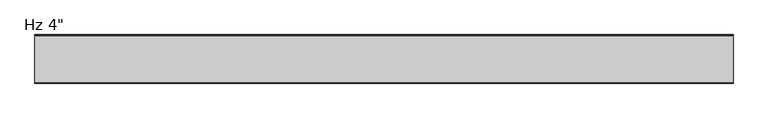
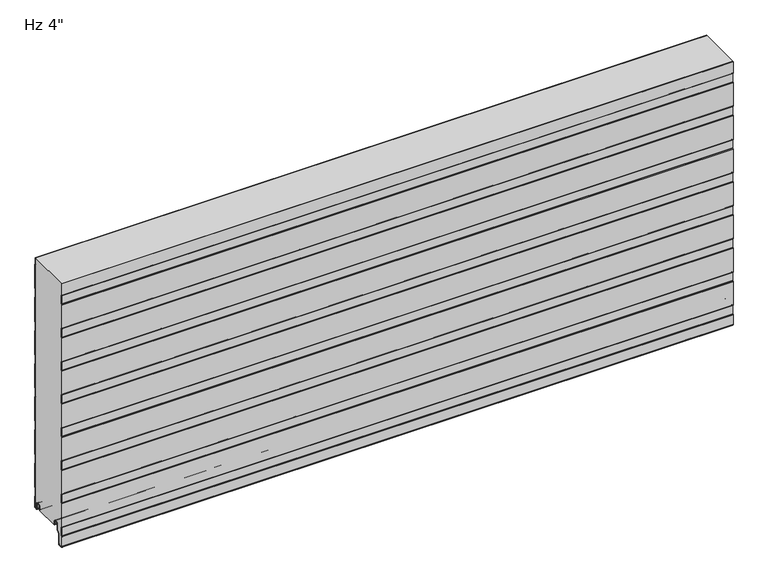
"""IFC4 building model written with IfcOpenShell, lengths in millimetres: plate geometry."""

from ifc_helpers import new_model, si_unit, point, frame, frame_2d, origin, place, context, project, spatial, polyline, circle_curve, trimmed, segment, composite_curve, outline, extrude, source, transform, mapped, element, save
from ifc_brep_helpers import plane_surface, cylinder_surface, revolved_surface, advanced_brep


def plate_79ad022d(model_context):
    return source(origin(), model_context, "Body", "SolidModel", [
        advanced_brep(
        [(-730.0, -17.0015368, 2.0313088), (-730.0, -18.00154, 1.0313116), (-730.0, -19.0015314, 2.0313088), (-730.0, -19.0015314, 6.0315125), (-730.0, -18.0015368, 6.0315125), (-730.0, -18.0015368, 8.7237223), (-730.0, -14.7015411, 12.023718), (-730.0, -10.3015499, 12.023718), (-730.0, -7.0015544, 8.7237225), (-730.0, -7.0015544, -1.6962564), (-730.0, -5.2315602, -3.4662506), (-730.0, -1.0000126, -3.4662506), (-730.0, -1.0000126, 21.034026), (-730.0, -2.2002516, 22.4196686), (-730.0, -2.2002516, 41.7948349), (-730.0, -1.0000209, 43.1804679), (-730.0, -1.0000209, 97.2338833), (-730.0, -2.2002516, 98.6195162), (-730.0, -2.2002516, 117.9946825), (-730.0, -1.0000209, 119.3803155), (-730.0, -1.0000209, 173.4337309), (-730.0, -2.2002516, 174.8193638), (-730.0, -2.2002516, 194.1945301), (-730.0, -1.0000209, 195.5801631), (-730.0, -1.0000209, 249.6335785), (-730.0, -2.2002516, 251.0192114), (-730.0, -2.2002516, 270.3943777), (-730.0, -1.0000209, 271.7800107), (-730.0, -1.0000209, 325.8334261), (-730.0, -2.2002516, 327.219059), (-730.0, -2.2002516, 346.5942253), (-730.0, -1.0000209, 347.9798583), (-730.0, -1.0000209, 402.0332737), (-730.0, -2.2002516, 403.4189066), (-730.0, -2.2002516, 422.7940729), (-730.0, -1.0000209, 424.1797059), (-730.0, -1.0000209, 478.2331213), (-730.0, -2.2002516, 479.6187542), (-730.0, -2.2002516, 498.9939205), (-730.0, -1.0000209, 500.3795535), (-730.0, -1.0000209, 554.4329689), (-730.0, -2.2002516, 555.8186018), (-730.0, -2.2002516, 571.2), (-730.0, -1.2002516, 571.2), (-730.0, -1.2002516, 556.1914823), (-730.0, -0.3418094, 555.2004346), (-730.0, -2.09e-05, 554.2838177), (-730.0, -2.09e-05, 500.5287046), (-730.0, -0.3418094, 499.6120877), (-730.0, -1.2002516, 498.6210401), (-730.0, -1.2002516, 479.9916347), (-730.0, -0.3418094, 479.000587), (-730.0, -2.09e-05, 478.0839701), (-730.0, -2.09e-05, 424.328857), (-730.0, -0.3418094, 423.4122401), (-730.0, -1.2002516, 422.4211925), (-730.0, -1.2002516, 403.7917871), (-730.0, -0.3418094, 402.8007394), (-730.0, -2.09e-05, 401.8841225), (-730.0, -2.09e-05, 348.1290094), (-730.0, -0.3418094, 347.2123925), (-730.0, -1.2002516, 346.2213449), (-730.0, -1.2002516, 327.5919395), (-730.0, -0.3418094, 326.6008918), (-730.0, -2.09e-05, 325.6842749), (-730.0, -2.09e-05, 271.9291618), (-730.0, -0.3418094, 271.0125449), (-730.0, -1.2002516, 270.0214973), (-730.0, -1.2002516, 251.3920919), (-730.0, -0.3418094, 250.4010442), (-730.0, -2.09e-05, 249.4844273), (-730.0, -2.09e-05, 195.7293142), (-730.0, -0.3418094, 194.8126973), (-730.0, -1.2002516, 193.8216497), (-730.0, -1.2002516, 175.1922443), (-730.0, -0.3418094, 174.2011966), (-730.0, -2.09e-05, 173.2845797), (-730.0, -2.09e-05, 119.5294666), (-730.0, -0.3418094, 118.6128497), (-730.0, -1.2002516, 117.6218021), (-730.0, -1.2002516, 98.9923967), (-730.0, -0.3418094, 98.001349), (-730.0, -2.09e-05, 97.0847321), (-730.0, -2.09e-05, 43.329619), (-730.0, -0.3418094, 42.4130021), (-730.0, -1.2002516, 41.4219545), (-730.0, -1.2002516, 22.7925491), (-730.0, -0.3418094, 21.8015014), (-730.0, -2.09e-05, 20.8847931), (-730.0, -1.26e-05, -3.0662545), (-730.0, -1.4000087, -4.4662506), (-730.0, -5.2315602, -4.4662506), (-730.0, -8.0015544, -1.6962564), (-730.0, -8.0015544, 8.7237225), (-730.0, -10.3015499, 11.023718), (-730.0, -14.7015411, 11.023718), (-730.0, -17.0015368, 8.7237223), (730.0, -17.0015368, 2.0313088), (730.0, -17.0015368, 8.7237223), (730.0, -14.7015411, 11.023718), (730.0, -10.3015499, 11.023718), (730.0, -8.0015544, 8.7237225), (730.0, -8.0015544, -1.6962564), (730.0, -5.2315602, -4.4662506), (730.0, -1.4000087, -4.4662506), (730.0, -1.26e-05, -3.0662545), (730.0, -1.26e-05, 20.8848845), (730.0, -0.3418094, 21.8015014), (730.0, -1.2002516, 22.7925491), (730.0, -1.2002516, 41.4219545), (730.0, -0.3418094, 42.4130021), (730.0, -2.09e-05, 43.329619), (730.0, -2.09e-05, 97.0847321), (730.0, -0.3418094, 98.001349), (730.0, -1.2002516, 98.9923967), (730.0, -1.2002516, 117.6218021), (730.0, -0.3418094, 118.6128497), (730.0, -2.09e-05, 119.5294666), (730.0, -2.09e-05, 173.2845797), (730.0, -0.3418094, 174.2011966), (730.0, -1.2002516, 175.1922443), (730.0, -1.2002516, 193.8216497), (730.0, -0.3418094, 194.8126973), (730.0, -2.09e-05, 195.7293142), (730.0, -2.09e-05, 249.4844273), (730.0, -0.3418094, 250.4010442), (730.0, -1.2002516, 251.3920919), (730.0, -1.2002516, 270.0214973), (730.0, -0.3418094, 271.0125449), (730.0, -2.09e-05, 271.9291618), (730.0, -2.09e-05, 325.6842749), (730.0, -0.3418094, 326.6008918), (730.0, -1.2002516, 327.5919395), (730.0, -1.2002516, 346.2213449), (730.0, -0.3418094, 347.2123925), (730.0, -2.09e-05, 348.1290094), (730.0, -2.09e-05, 401.8841225), (730.0, -0.3418094, 402.8007394), (730.0, -1.2002516, 403.7917871), (730.0, -1.2002516, 422.4211925), (730.0, -0.3418094, 423.4122401), (730.0, -2.09e-05, 424.328857), (730.0, -2.09e-05, 478.0839701), (730.0, -0.3418094, 479.000587), (730.0, -1.2002516, 479.9916347), (730.0, -1.2002516, 498.6210401), (730.0, -0.3418094, 499.6120877), (730.0, -2.09e-05, 500.5287046), (730.0, -2.09e-05, 554.2838177), (730.0, -0.3418094, 555.2004346), (730.0, -1.2002516, 556.1914823), (730.0, -1.2002516, 571.2), (730.0, -2.2002516, 571.2), (730.0, -2.2002516, 555.8186018), (730.0, -1.0000209, 554.4329689), (730.0, -1.0000209, 500.3795535), (730.0, -2.2002516, 498.9939205), (730.0, -2.2002516, 479.6187542), (730.0, -1.0000209, 478.2331213), (730.0, -1.0000209, 424.1797059), (730.0, -2.2002516, 422.7940729), (730.0, -2.2002516, 403.4189066), (730.0, -1.0000209, 402.0332737), (730.0, -1.0000209, 347.9798583), (730.0, -2.2002516, 346.5942253), (730.0, -2.2002516, 327.219059), (730.0, -1.0000209, 325.8334261), (730.0, -1.0000209, 271.7800107), (730.0, -2.2002516, 270.3943777), (730.0, -2.2002516, 251.0192114), (730.0, -1.0000209, 249.6335785), (730.0, -1.0000209, 195.5801631), (730.0, -2.2002516, 194.1945301), (730.0, -2.2002516, 174.8193638), (730.0, -1.0000209, 173.4337309), (730.0, -1.0000209, 119.3803155), (730.0, -2.2002516, 117.9946825), (730.0, -2.2002516, 98.6195162), (730.0, -1.0000209, 97.2338833), (730.0, -1.0000209, 43.1804679), (730.0, -2.2002516, 41.7948349), (730.0, -2.2002516, 22.4196686), (730.0, -1.0000126, 21.034026), (730.0, -1.0000126, -3.4662506), (730.0, -5.2315602, -3.4662506), (730.0, -7.0015544, -1.6962564), (730.0, -7.0015544, 8.7237225), (730.0, -10.3015499, 12.023718), (730.0, -14.7015411, 12.023718), (730.0, -18.0015368, 8.7237223), (730.0, -18.0015368, 6.0315125), (730.0, -19.0015314, 6.0315125), (730.0, -19.0015314, 2.0313088), (730.0, -18.0015401, 1.0313116)],
        [
            (0, 1, circle_curve(frame((-730.0, -18.0015341, 2.0313088), z_axis=(-1.0, 0.0, 0.0), x_axis=(0.0, 0.0, 1.0)), 0.9999973)),
            (1, 2, circle_curve(frame((-730.0, -18.0015342, 2.0313088), z_axis=(-1.0, 0.0, 0.0), x_axis=(0.0, 0.0, 1.0)), 0.9999972)),
            (2, 3),
            (3, 4),
            (4, 5),
            (5, 6, circle_curve(frame((-730.0, -14.7015411, 8.7237223), z_axis=(-1.0, 0.0, 0.0), x_axis=(0.0, 0.0, 1.0)), 3.2999957)),
            (6, 7),
            (7, 8, circle_curve(frame((-730.0, -10.3015499, 8.7237225), z_axis=(-1.0, 0.0, 0.0), x_axis=(0.0, 0.0, 1.0)), 3.2999955)),
            (8, 9),
            (9, 10, circle_curve(frame((-730.0, -5.2315602, -1.6962564), z_axis=(1.0, 0.0, 0.0), x_axis=(0.0, 0.0, 1.0)), 1.7699942)),
            (10, 11),
            (11, 12),
            (12, 13),
            (13, 14),
            (14, 15),
            (15, 16),
            (16, 17),
            (17, 18),
            (18, 19),
            (19, 20),
            (20, 21),
            (21, 22),
            (22, 23),
            (23, 24),
            (24, 25),
            (25, 26),
            (26, 27),
            (27, 28),
            (28, 29),
            (29, 30),
            (30, 31),
            (31, 32),
            (32, 33),
            (33, 34),
            (34, 35),
            (35, 36),
            (36, 37),
            (37, 38),
            (38, 39),
            (39, 40),
            (40, 41),
            (41, 42),
            (42, 43),
            (43, 44),
            (44, 45),
            (45, 46, circle_curve(frame((-730.0, -1.4000181, 554.2838177), z_axis=(-1.0, 0.0, 0.0), x_axis=(0.0, 0.0, 1.0)), 1.3999972)),
            (46, 47),
            (47, 48, circle_curve(frame((-730.0, -1.4000181, 500.5287046), z_axis=(-1.0, 0.0, 0.0), x_axis=(0.0, 0.0, 1.0)), 1.3999972)),
            (48, 49),
            (49, 50),
            (50, 51),
            (51, 52, circle_curve(frame((-730.0, -1.4000181, 478.0839701), z_axis=(-1.0, 0.0, 0.0), x_axis=(0.0, 0.0, 1.0)), 1.3999972)),
            (52, 53),
            (53, 54, circle_curve(frame((-730.0, -1.4000181, 424.328857), z_axis=(-1.0, 0.0, 0.0), x_axis=(0.0, 0.0, 1.0)), 1.3999972)),
            (54, 55),
            (55, 56),
            (56, 57),
            (57, 58, circle_curve(frame((-730.0, -1.4000181, 401.8841225), z_axis=(-1.0, 0.0, 0.0), x_axis=(0.0, 0.0, 1.0)), 1.3999972)),
            (58, 59),
            (59, 60, circle_curve(frame((-730.0, -1.4000181, 348.1290094), z_axis=(-1.0, 0.0, 0.0), x_axis=(0.0, 0.0, 1.0)), 1.3999972)),
            (60, 61),
            (61, 62),
            (62, 63),
            (63, 64, circle_curve(frame((-730.0, -1.4000181, 325.6842749), z_axis=(-1.0, 0.0, 0.0), x_axis=(0.0, 0.0, 1.0)), 1.3999972)),
            (64, 65),
            (65, 66, circle_curve(frame((-730.0, -1.4000181, 271.9291618), z_axis=(-1.0, 0.0, 0.0), x_axis=(0.0, 0.0, 1.0)), 1.3999972)),
            (66, 67),
            (67, 68),
            (68, 69),
            (69, 70, circle_curve(frame((-730.0, -1.4000181, 249.4844273), z_axis=(-1.0, 0.0, 0.0), x_axis=(0.0, 0.0, 1.0)), 1.3999972)),
            (70, 71),
            (71, 72, circle_curve(frame((-730.0, -1.4000181, 195.7293142), z_axis=(-1.0, 0.0, 0.0), x_axis=(0.0, 0.0, 1.0)), 1.3999972)),
            (72, 73),
            (73, 74),
            (74, 75),
            (75, 76, circle_curve(frame((-730.0, -1.4000181, 173.2845797), z_axis=(-1.0, 0.0, 0.0), x_axis=(0.0, 0.0, 1.0)), 1.3999972)),
            (76, 77),
            (77, 78, circle_curve(frame((-730.0, -1.4000181, 119.5294666), z_axis=(-1.0, 0.0, 0.0), x_axis=(0.0, 0.0, 1.0)), 1.3999972)),
            (78, 79),
            (79, 80),
            (80, 81),
            (81, 82, circle_curve(frame((-730.0, -1.4000181, 97.0847321), z_axis=(-1.0, 0.0, 0.0), x_axis=(0.0, 0.0, 1.0)), 1.3999972)),
            (82, 83),
            (83, 84, circle_curve(frame((-730.0, -1.4000181, 43.329619), z_axis=(-1.0, 0.0, 0.0), x_axis=(0.0, 0.0, 1.0)), 1.3999972)),
            (84, 85),
            (85, 86),
            (86, 87),
            (87, 88, circle_curve(frame((-730.0, -1.4000181, 20.8848845), z_axis=(-1.0, 0.0, 0.0), x_axis=(0.0, 0.0, 1.0)), 1.3999972)),
            (88, 89),
            (89, 90, circle_curve(frame((-730.0, -1.4000087, -3.0662545), z_axis=(-1.0, 0.0, 0.0), x_axis=(0.0, 0.0, 1.0)), 1.3999962)),
            (90, 91),
            (91, 92, circle_curve(frame((-730.0, -5.2315602, -1.6962564), z_axis=(-1.0, 0.0, 0.0), x_axis=(0.0, 0.0, 1.0)), 2.7699942)),
            (92, 93),
            (93, 94, circle_curve(frame((-730.0, -10.3015499, 8.7237225), z_axis=(1.0, 0.0, 0.0), x_axis=(0.0, 0.0, 1.0)), 2.2999955)),
            (94, 95),
            (95, 96, circle_curve(frame((-730.0, -14.7015411, 8.7237223), z_axis=(1.0, 0.0, 0.0), x_axis=(0.0, 0.0, 1.0)), 2.2999957)),
            (96, 0),
            (97, 98),
            (98, 99, circle_curve(frame((730.0, -14.7015411, 8.7237223), z_axis=(-1.0, 0.0, 0.0), x_axis=(0.0, 0.0, 1.0)), 2.2999957)),
            (99, 100),
            (100, 101, circle_curve(frame((730.0, -10.3015499, 8.7237225), z_axis=(-1.0, 0.0, 0.0), x_axis=(0.0, 0.0, 1.0)), 2.2999955)),
            (101, 102),
            (102, 103, circle_curve(frame((730.0, -5.2315602, -1.6962564), z_axis=(1.0, 0.0, 0.0), x_axis=(0.0, 0.0, 1.0)), 2.7699942)),
            (103, 104),
            (104, 105, circle_curve(frame((730.0, -1.4000087, -3.0662545), z_axis=(1.0, 0.0, 0.0), x_axis=(0.0, 0.0, 1.0)), 1.3999962)),
            (105, 106),
            (106, 107, circle_curve(frame((730.0, -1.4000181, 20.8848845), z_axis=(1.0, 0.0, 0.0), x_axis=(0.0, 0.0, 1.0)), 1.3999972)),
            (107, 108),
            (108, 109),
            (109, 110),
            (110, 111, circle_curve(frame((730.0, -1.4000181, 43.329619), z_axis=(1.0, 0.0, 0.0), x_axis=(0.0, 0.0, 1.0)), 1.3999972)),
            (111, 112),
            (112, 113, circle_curve(frame((730.0, -1.4000181, 97.0847321), z_axis=(1.0, 0.0, 0.0), x_axis=(0.0, 0.0, 1.0)), 1.3999972)),
            (113, 114),
            (114, 115),
            (115, 116),
            (116, 117, circle_curve(frame((730.0, -1.4000181, 119.5294666), z_axis=(1.0, 0.0, 0.0), x_axis=(0.0, 0.0, 1.0)), 1.3999972)),
            (117, 118),
            (118, 119, circle_curve(frame((730.0, -1.4000181, 173.2845797), z_axis=(1.0, 0.0, 0.0), x_axis=(0.0, 0.0, 1.0)), 1.3999972)),
            (119, 120),
            (120, 121),
            (121, 122),
            (122, 123, circle_curve(frame((730.0, -1.4000181, 195.7293142), z_axis=(1.0, 0.0, 0.0), x_axis=(0.0, 0.0, 1.0)), 1.3999972)),
            (123, 124),
            (124, 125, circle_curve(frame((730.0, -1.4000181, 249.4844273), z_axis=(1.0, 0.0, 0.0), x_axis=(0.0, 0.0, 1.0)), 1.3999972)),
            (125, 126),
            (126, 127),
            (127, 128),
            (128, 129, circle_curve(frame((730.0, -1.4000181, 271.9291618), z_axis=(1.0, 0.0, 0.0), x_axis=(0.0, 0.0, 1.0)), 1.3999972)),
            (129, 130),
            (130, 131, circle_curve(frame((730.0, -1.4000181, 325.6842749), z_axis=(1.0, 0.0, 0.0), x_axis=(0.0, 0.0, 1.0)), 1.3999972)),
            (131, 132),
            (132, 133),
            (133, 134),
            (134, 135, circle_curve(frame((730.0, -1.4000181, 348.1290094), z_axis=(1.0, 0.0, 0.0), x_axis=(0.0, 0.0, 1.0)), 1.3999972)),
            (135, 136),
            (136, 137, circle_curve(frame((730.0, -1.4000181, 401.8841225), z_axis=(1.0, 0.0, 0.0), x_axis=(0.0, 0.0, 1.0)), 1.3999972)),
            (137, 138),
            (138, 139),
            (139, 140),
            (140, 141, circle_curve(frame((730.0, -1.4000181, 424.328857), z_axis=(1.0, 0.0, 0.0), x_axis=(0.0, 0.0, 1.0)), 1.3999972)),
            (141, 142),
            (142, 143, circle_curve(frame((730.0, -1.4000181, 478.0839701), z_axis=(1.0, 0.0, 0.0), x_axis=(0.0, 0.0, 1.0)), 1.3999972)),
            (143, 144),
            (144, 145),
            (145, 146),
            (146, 147, circle_curve(frame((730.0, -1.4000181, 500.5287046), z_axis=(1.0, 0.0, 0.0), x_axis=(0.0, 0.0, 1.0)), 1.3999972)),
            (147, 148),
            (148, 149, circle_curve(frame((730.0, -1.4000181, 554.2838177), z_axis=(1.0, 0.0, 0.0), x_axis=(0.0, 0.0, 1.0)), 1.3999972)),
            (149, 150),
            (150, 151),
            (151, 152),
            (152, 153),
            (153, 154),
            (154, 155),
            (155, 156),
            (156, 157),
            (157, 158),
            (158, 159),
            (159, 160),
            (160, 161),
            (161, 162),
            (162, 163),
            (163, 164),
            (164, 165),
            (165, 166),
            (166, 167),
            (167, 168),
            (168, 169),
            (169, 170),
            (170, 171),
            (171, 172),
            (172, 173),
            (173, 174),
            (174, 175),
            (175, 176),
            (176, 177),
            (177, 178),
            (178, 179),
            (179, 180),
            (180, 181),
            (181, 182),
            (182, 183),
            (183, 184),
            (184, 185, circle_curve(frame((730.0, -5.2315602, -1.6962564), z_axis=(-1.0, 0.0, 0.0), x_axis=(0.0, 0.0, 1.0)), 1.7699942)),
            (185, 186),
            (186, 187, circle_curve(frame((730.0, -10.3015499, 8.7237225), z_axis=(1.0, 0.0, 0.0), x_axis=(0.0, 0.0, 1.0)), 3.2999955)),
            (187, 188),
            (188, 189, circle_curve(frame((730.0, -14.7015411, 8.7237223), z_axis=(1.0, 0.0, 0.0), x_axis=(0.0, 0.0, 1.0)), 3.2999957)),
            (189, 190),
            (190, 191),
            (191, 192),
            (192, 193, circle_curve(frame((730.0, -18.0015342, 2.0313088), z_axis=(1.0, 0.0, 0.0), x_axis=(0.0, 0.0, 1.0)), 0.9999972)),
            (193, 97, circle_curve(frame((730.0, -18.0015341, 2.0313088), z_axis=(1.0, 0.0, 0.0), x_axis=(0.0, 0.0, 1.0)), 0.9999973)),
            (96, 98),
            (97, 0),
            (95, 99),
            (94, 100),
            (93, 101),
            (92, 102),
            (91, 103),
            (90, 104),
            (89, 105),
            (88, 106),
            (87, 107),
            (86, 108),
            (85, 109),
            (84, 110),
            (83, 111),
            (82, 112),
            (81, 113),
            (80, 114),
            (79, 115),
            (78, 116),
            (77, 117),
            (76, 118),
            (75, 119),
            (74, 120),
            (73, 121),
            (72, 122),
            (71, 123),
            (70, 124),
            (69, 125),
            (68, 126),
            (67, 127),
            (66, 128),
            (65, 129),
            (64, 130),
            (63, 131),
            (62, 132),
            (61, 133),
            (60, 134),
            (59, 135),
            (58, 136),
            (57, 137),
            (56, 138),
            (55, 139),
            (54, 140),
            (53, 141),
            (52, 142),
            (51, 143),
            (50, 144),
            (49, 145),
            (48, 146),
            (47, 147),
            (46, 148),
            (45, 149),
            (44, 150),
            (43, 151),
            (152, 42),
            (41, 153),
            (40, 154),
            (39, 155),
            (38, 156),
            (37, 157),
            (36, 158),
            (35, 159),
            (34, 160),
            (33, 161),
            (32, 162),
            (31, 163),
            (30, 164),
            (29, 165),
            (28, 166),
            (27, 167),
            (26, 168),
            (25, 169),
            (24, 170),
            (23, 171),
            (22, 172),
            (21, 173),
            (20, 174),
            (19, 175),
            (18, 176),
            (17, 177),
            (16, 178),
            (15, 179),
            (14, 180),
            (13, 181),
            (12, 182),
            (11, 183),
            (10, 184),
            (9, 185),
            (8, 186),
            (7, 187),
            (6, 188),
            (5, 189),
            (4, 190),
            (3, 191),
            (2, 192),
            (1, 193),
        ],
        [
            plane_surface(frame((-730.0, -2.09e-05, 457.2), z_axis=(-1.0, 0.0, 0.0), x_axis=(0.0, 1.0, 0.0))),
            plane_surface(frame((730.0, -2.09e-05, 457.2), z_axis=(1.0, 0.0, 0.0), x_axis=(0.0, 1.0, 0.0))),
            plane_surface(frame((-730.0, -17.0015368, 2.0313088), z_axis=(0.0, 1.0, 0.0), x_axis=(1.0, 0.0, 0.0))),
            revolved_surface(polyline([(730.0, -14.7015411, 11.023718), (-730.0, -14.7015411, 11.023718)]), (-730.0, -14.7015411, 8.7237223), (1.0, 0.0, 0.0)),
            plane_surface(frame((-730.0, -14.7015411, 11.023718), z_axis=(0.0, 0.0, -1.0), x_axis=(1.0, 0.0, 0.0))),
            revolved_surface(polyline([(730.0, -10.3015499, 11.023717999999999), (-730.0, -10.3015499, 11.023717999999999)]), (-730.0, -10.3015499, 8.7237225), (1.0, 0.0, 0.0)),
            plane_surface(frame((-730.0, -8.0015544, 8.7237225), z_axis=(0.0, -1.0, 0.0), x_axis=(1.0, 0.0, 0.0))),
            cylinder_surface(frame((-730.0, -5.2315602, -1.6962564), z_axis=(-1.0, 0.0, 0.0), x_axis=(0.0, 0.0, 1.0)), 2.7699942),
            plane_surface(frame((-730.0, -5.2315602, -4.4662506), z_axis=(0.0, 0.0, -1.0), x_axis=(1.0, 0.0, 0.0))),
            cylinder_surface(frame((-730.0, -1.4000087, -3.0662545), z_axis=(-1.0, 0.0, 0.0), x_axis=(0.0, 0.0, 1.0)), 1.3999962),
            plane_surface(frame((-730.0, -1.26e-05, -3.0662545), z_axis=(0.0, 1.0, 0.0), x_axis=(1.0, 0.0, 0.0))),
            cylinder_surface(frame((-730.0, -1.4000181, 20.8848845), z_axis=(-1.0, 0.0, 0.0), x_axis=(0.0, 0.0, 1.0)), 1.3999972),
            plane_surface(frame((-730.0, -0.3418094, 21.8015014), z_axis=(0.0, 0.755864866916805, 0.6547276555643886), x_axis=(1.0, 0.0, 0.0))),
            plane_surface(frame((-730.0, -1.2002516, 32.1072518), z_axis=(0.0, 1.0, 0.0), x_axis=(1.0, 0.0, 0.0))),
            plane_surface(frame((-730.0, -1.2002516, 41.4219545), z_axis=(0.0, 0.755864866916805, -0.6547276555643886), x_axis=(1.0, 0.0, 0.0))),
            cylinder_surface(frame((-730.0, -1.4000181, 43.329619), z_axis=(-1.0, 0.0, 0.0), x_axis=(0.0, 0.0, 1.0)), 1.3999972),
            plane_surface(frame((-730.0, -2.09e-05, 43.329619), z_axis=(0.0, 1.0, 0.0), x_axis=(1.0, 0.0, 0.0))),
            cylinder_surface(frame((-730.0, -1.4000181, 97.0847321), z_axis=(-1.0, 0.0, 0.0), x_axis=(0.0, 0.0, 1.0)), 1.3999972),
            plane_surface(frame((-730.0, -0.3418094, 98.001349), z_axis=(0.0, 0.755864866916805, 0.6547276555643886), x_axis=(1.0, 0.0, 0.0))),
            plane_surface(frame((-730.0, -1.2002516, 108.3070994), z_axis=(0.0, 1.0, 0.0), x_axis=(1.0, 0.0, 0.0))),
            plane_surface(frame((-730.0, -1.2002516, 117.6218021), z_axis=(0.0, 0.755864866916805, -0.6547276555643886), x_axis=(1.0, 0.0, 0.0))),
            cylinder_surface(frame((-730.0, -1.4000181, 119.5294666), z_axis=(-1.0, 0.0, 0.0), x_axis=(0.0, 0.0, 1.0)), 1.3999972),
            plane_surface(frame((-730.0, -2.09e-05, 119.5294666), z_axis=(0.0, 1.0, 0.0), x_axis=(1.0, 0.0, 0.0))),
            cylinder_surface(frame((-730.0, -1.4000181, 173.2845797), z_axis=(-1.0, 0.0, 0.0), x_axis=(0.0, 0.0, 1.0)), 1.3999972),
            plane_surface(frame((-730.0, -0.3418094, 174.2011966), z_axis=(0.0, 0.755864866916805, 0.6547276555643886), x_axis=(1.0, 0.0, 0.0))),
            plane_surface(frame((-730.0, -1.2002516, 184.506947), z_axis=(0.0, 1.0, 0.0), x_axis=(1.0, 0.0, 0.0))),
            plane_surface(frame((-730.0, -1.2002516, 193.8216497), z_axis=(0.0, 0.755864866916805, -0.6547276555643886), x_axis=(1.0, 0.0, 0.0))),
            cylinder_surface(frame((-730.0, -1.4000181, 195.7293142), z_axis=(-1.0, 0.0, 0.0), x_axis=(0.0, 0.0, 1.0)), 1.3999972),
            plane_surface(frame((-730.0, -2.09e-05, 195.7293142), z_axis=(0.0, 1.0, 0.0), x_axis=(1.0, 0.0, 0.0))),
            cylinder_surface(frame((-730.0, -1.4000181, 249.4844273), z_axis=(-1.0, 0.0, 0.0), x_axis=(0.0, 0.0, 1.0)), 1.3999972),
            plane_surface(frame((-730.0, -0.3418094, 250.4010442), z_axis=(0.0, 0.755864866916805, 0.6547276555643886), x_axis=(1.0, 0.0, 0.0))),
            plane_surface(frame((-730.0, -1.2002516, 260.7067946), z_axis=(0.0, 1.0, 0.0), x_axis=(1.0, 0.0, 0.0))),
            plane_surface(frame((-730.0, -1.2002516, 270.0214973), z_axis=(0.0, 0.755864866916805, -0.6547276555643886), x_axis=(1.0, 0.0, 0.0))),
            cylinder_surface(frame((-730.0, -1.4000181, 271.9291618), z_axis=(-1.0, 0.0, 0.0), x_axis=(0.0, 0.0, 1.0)), 1.3999972),
            plane_surface(frame((-730.0, -2.09e-05, 271.9291618), z_axis=(0.0, 1.0, 0.0), x_axis=(1.0, 0.0, 0.0))),
            cylinder_surface(frame((-730.0, -1.4000181, 325.6842749), z_axis=(-1.0, 0.0, 0.0), x_axis=(0.0, 0.0, 1.0)), 1.3999972),
            plane_surface(frame((-730.0, -0.3418094, 326.6008918), z_axis=(0.0, 0.755864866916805, 0.6547276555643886), x_axis=(1.0, 0.0, 0.0))),
            plane_surface(frame((-730.0, -1.2002516, 336.9066422), z_axis=(0.0, 1.0, 0.0), x_axis=(1.0, 0.0, 0.0))),
            plane_surface(frame((-730.0, -1.2002516, 346.2213449), z_axis=(0.0, 0.755864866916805, -0.6547276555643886), x_axis=(1.0, 0.0, 0.0))),
            cylinder_surface(frame((-730.0, -1.4000181, 348.1290094), z_axis=(-1.0, 0.0, 0.0), x_axis=(0.0, 0.0, 1.0)), 1.3999972),
            plane_surface(frame((-730.0, -2.09e-05, 348.1290094), z_axis=(0.0, 1.0, 0.0), x_axis=(1.0, 0.0, 0.0))),
            cylinder_surface(frame((-730.0, -1.4000181, 401.8841225), z_axis=(-1.0, 0.0, 0.0), x_axis=(0.0, 0.0, 1.0)), 1.3999972),
            plane_surface(frame((-730.0, -0.3418094, 402.8007394), z_axis=(0.0, 0.755864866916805, 0.6547276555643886), x_axis=(1.0, 0.0, 0.0))),
            plane_surface(frame((-730.0, -1.2002516, 413.1064898), z_axis=(0.0, 1.0, 0.0), x_axis=(1.0, 0.0, 0.0))),
            plane_surface(frame((-730.0, -1.2002516, 422.4211925), z_axis=(0.0, 0.755864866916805, -0.6547276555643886), x_axis=(1.0, 0.0, 0.0))),
            cylinder_surface(frame((-730.0, -1.4000181, 424.328857), z_axis=(-1.0, 0.0, 0.0), x_axis=(0.0, 0.0, 1.0)), 1.3999972),
            plane_surface(frame((-730.0, -2.09e-05, 424.328857), z_axis=(0.0, 1.0, 0.0), x_axis=(1.0, 0.0, 0.0))),
            cylinder_surface(frame((-730.0, -1.4000181, 478.0839701), z_axis=(-1.0, 0.0, 0.0), x_axis=(0.0, 0.0, 1.0)), 1.3999972),
            plane_surface(frame((-730.0, -0.3418094, 479.000587), z_axis=(0.0, 0.755864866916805, 0.6547276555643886), x_axis=(1.0, 0.0, 0.0))),
            plane_surface(frame((-730.0, -1.2002516, 489.3063374), z_axis=(0.0, 1.0, 0.0), x_axis=(1.0, 0.0, 0.0))),
            plane_surface(frame((-730.0, -1.2002516, 498.6210401), z_axis=(0.0, 0.755864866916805, -0.6547276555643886), x_axis=(1.0, 0.0, 0.0))),
            cylinder_surface(frame((-730.0, -1.4000181, 500.5287046), z_axis=(-1.0, 0.0, 0.0), x_axis=(0.0, 0.0, 1.0)), 1.3999972),
            plane_surface(frame((-730.0, -2.09e-05, 500.5287046), z_axis=(0.0, 1.0, 0.0), x_axis=(1.0, 0.0, 0.0))),
            cylinder_surface(frame((-730.0, -1.4000181, 554.2838177), z_axis=(-1.0, 0.0, 0.0), x_axis=(0.0, 0.0, 1.0)), 1.3999972),
            plane_surface(frame((-730.0, -0.3418094, 555.2004346), z_axis=(0.0, 0.755864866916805, 0.6547276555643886), x_axis=(1.0, 0.0, 0.0))),
            plane_surface(frame((-730.0, -1.2002516, 565.506185), z_axis=(0.0, 1.0, 0.0), x_axis=(1.0, 0.0, 0.0))),
            plane_surface(frame((-730.0, -2.2002516, 575.1937681), z_axis=(0.0, -1.0, 0.0), x_axis=(1.0, 0.0, 0.0))),
            plane_surface(frame((-730.0, -2.2002516, 555.8186018), z_axis=(0.0, -0.755864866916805, -0.6547276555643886), x_axis=(1.0, 0.0, 0.0))),
            plane_surface(frame((-730.0, -1.0000209, 554.4329689), z_axis=(0.0, -1.0, 0.0), x_axis=(1.0, 0.0, 0.0))),
            plane_surface(frame((-730.0, -1.0000209, 500.3795535), z_axis=(0.0, -0.755864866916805, 0.6547276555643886), x_axis=(1.0, 0.0, 0.0))),
            plane_surface(frame((-730.0, -2.2002516, 498.9939205), z_axis=(0.0, -1.0, 0.0), x_axis=(1.0, 0.0, 0.0))),
            plane_surface(frame((-730.0, -2.2002516, 479.6187542), z_axis=(0.0, -0.755864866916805, -0.6547276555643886), x_axis=(1.0, 0.0, 0.0))),
            plane_surface(frame((-730.0, -1.0000209, 478.2331213), z_axis=(0.0, -1.0, 0.0), x_axis=(1.0, 0.0, 0.0))),
            plane_surface(frame((-730.0, -1.0000209, 424.1797059), z_axis=(0.0, -0.755864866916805, 0.6547276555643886), x_axis=(1.0, 0.0, 0.0))),
            plane_surface(frame((-730.0, -2.2002516, 422.7940729), z_axis=(0.0, -1.0, 0.0), x_axis=(1.0, 0.0, 0.0))),
            plane_surface(frame((-730.0, -2.2002516, 403.4189066), z_axis=(0.0, -0.755864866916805, -0.6547276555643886), x_axis=(1.0, 0.0, 0.0))),
            plane_surface(frame((-730.0, -1.0000209, 402.0332737), z_axis=(0.0, -1.0, 0.0), x_axis=(1.0, 0.0, 0.0))),
            plane_surface(frame((-730.0, -1.0000209, 347.9798583), z_axis=(0.0, -0.755864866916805, 0.6547276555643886), x_axis=(1.0, 0.0, 0.0))),
            plane_surface(frame((-730.0, -2.2002516, 346.5942253), z_axis=(0.0, -1.0, 0.0), x_axis=(1.0, 0.0, 0.0))),
            plane_surface(frame((-730.0, -2.2002516, 327.219059), z_axis=(0.0, -0.755864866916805, -0.6547276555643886), x_axis=(1.0, 0.0, 0.0))),
            plane_surface(frame((-730.0, -1.0000209, 325.8334261), z_axis=(0.0, -1.0, 0.0), x_axis=(1.0, 0.0, 0.0))),
            plane_surface(frame((-730.0, -1.0000209, 271.7800107), z_axis=(0.0, -0.755864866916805, 0.6547276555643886), x_axis=(1.0, 0.0, 0.0))),
            plane_surface(frame((-730.0, -2.2002516, 270.3943777), z_axis=(0.0, -1.0, 0.0), x_axis=(1.0, 0.0, 0.0))),
            plane_surface(frame((-730.0, -2.2002516, 251.0192114), z_axis=(0.0, -0.755864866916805, -0.6547276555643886), x_axis=(1.0, 0.0, 0.0))),
            plane_surface(frame((-730.0, -1.0000209, 249.6335785), z_axis=(0.0, -1.0, 0.0), x_axis=(1.0, 0.0, 0.0))),
            plane_surface(frame((-730.0, -1.0000209, 195.5801631), z_axis=(0.0, -0.755864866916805, 0.6547276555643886), x_axis=(1.0, 0.0, 0.0))),
            plane_surface(frame((-730.0, -2.2002516, 194.1945301), z_axis=(0.0, -1.0, 0.0), x_axis=(1.0, 0.0, 0.0))),
            plane_surface(frame((-730.0, -2.2002516, 174.8193638), z_axis=(0.0, -0.755864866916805, -0.6547276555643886), x_axis=(1.0, 0.0, 0.0))),
            plane_surface(frame((-730.0, -1.0000209, 173.4337309), z_axis=(0.0, -1.0, 0.0), x_axis=(1.0, 0.0, 0.0))),
            plane_surface(frame((-730.0, -1.0000209, 119.3803155), z_axis=(0.0, -0.755864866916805, 0.6547276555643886), x_axis=(1.0, 0.0, 0.0))),
            plane_surface(frame((-730.0, -2.2002516, 117.9946825), z_axis=(0.0, -1.0, 0.0), x_axis=(1.0, 0.0, 0.0))),
            plane_surface(frame((-730.0, -2.2002516, 98.6195162), z_axis=(0.0, -0.755864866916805, -0.6547276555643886), x_axis=(1.0, 0.0, 0.0))),
            plane_surface(frame((-730.0, -1.0000209, 97.2338833), z_axis=(0.0, -1.0, 0.0), x_axis=(1.0, 0.0, 0.0))),
            plane_surface(frame((-730.0, -1.0000209, 43.1804679), z_axis=(0.0, -0.755864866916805, 0.6547276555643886), x_axis=(1.0, 0.0, 0.0))),
            plane_surface(frame((-730.0, -2.2002516, 41.7948349), z_axis=(0.0, -1.0, 0.0), x_axis=(1.0, 0.0, 0.0))),
            plane_surface(frame((-730.0, -2.2002516, 22.4196686), z_axis=(0.0, -0.755864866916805, -0.6547276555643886), x_axis=(1.0, 0.0, 0.0))),
            plane_surface(frame((-730.0, -1.0000126, 21.034026), z_axis=(0.0, -1.0, 0.0), x_axis=(1.0, 0.0, 0.0))),
            plane_surface(frame((-730.0, -1.0000126, -3.4662506), z_axis=(0.0, 0.0, 1.0), x_axis=(1.0, 0.0, 0.0))),
            revolved_surface(polyline([(730.0, -5.2315602, 0.07373779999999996), (-730.0, -5.2315602, 0.07373779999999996)]), (-730.0, -5.2315602, -1.6962564), (1.0, 0.0, 0.0)),
            plane_surface(frame((-730.0, -7.0015544, -1.6962564), z_axis=(0.0, 1.0, 0.0), x_axis=(1.0, 0.0, 0.0))),
            cylinder_surface(frame((-730.0, -10.3015499, 8.7237225), z_axis=(-1.0, 0.0, 0.0), x_axis=(0.0, 0.0, 1.0)), 3.2999955),
            plane_surface(frame((-730.0, -10.3015499, 12.023718), z_axis=(0.0, 0.0, 1.0), x_axis=(1.0, 0.0, 0.0))),
            cylinder_surface(frame((-730.0, -14.7015411, 8.7237223), z_axis=(-1.0, 0.0, 0.0), x_axis=(0.0, 0.0, 1.0)), 3.2999957),
            plane_surface(frame((-730.0, -18.0015368, 8.7237223), z_axis=(0.0, -1.0, 0.0), x_axis=(1.0, 0.0, 0.0))),
            plane_surface(frame((-730.0, -18.0015368, 6.0315125), z_axis=(0.0, 0.0, 1.0), x_axis=(1.0, 0.0, 0.0))),
            plane_surface(frame((-730.0, -19.0015314, 6.0315125), z_axis=(0.0, -1.0, 0.0), x_axis=(1.0, 0.0, 0.0))),
            cylinder_surface(frame((-730.0, -18.0015342, 2.0313088), z_axis=(-1.0, 0.0, 0.0), x_axis=(0.0, 0.0, 1.0)), 0.9999972),
            cylinder_surface(frame((-730.0, -18.0015341, 2.0313088), z_axis=(-1.0, 0.0, 0.0), x_axis=(0.0, 0.0, 1.0)), 0.9999973),
            plane_surface(frame((730.0, 9.9999791, 571.2), z_axis=(0.0, 0.0, 1.0), x_axis=(-1.0, 0.0, 0.0))),
        ],
        [
            (0, [[1, 2, 3, 4, 5, 6, 7, 8, 9, 10, 11, 12, 13, 14, 15, 16, 17, 18, 19, 20, 21, 22, 23, 24, 25, 26, 27, 28, 29, 30, 31, 32, 33, 34, 35, 36, 37, 38, 39, 40, 41, 42, 43, 44, 45, 46, 47, 48, 49, 50, 51, 52, 53, 54, 55, 56, 57, 58, 59, 60, 61, 62, 63, 64, 65, 66, 67, 68, 69, 70, 71, 72, 73, 74, 75, 76, 77, 78, 79, 80, 81, 82, 83, 84, 85, 86, 87, 88, 89, 90, 91, 92, 93, 94, 95, 96, 97]]),
            (1, [[98, 99, 100, 101, 102, 103, 104, 105, 106, 107, 108, 109, 110, 111, 112, 113, 114, 115, 116, 117, 118, 119, 120, 121, 122, 123, 124, 125, 126, 127, 128, 129, 130, 131, 132, 133, 134, 135, 136, 137, 138, 139, 140, 141, 142, 143, 144, 145, 146, 147, 148, 149, 150, 151, 152, 153, 154, 155, 156, 157, 158, 159, 160, 161, 162, 163, 164, 165, 166, 167, 168, 169, 170, 171, 172, 173, 174, 175, 176, 177, 178, 179, 180, 181, 182, 183, 184, 185, 186, 187, 188, 189, 190, 191, 192, 193, 194]]),
            (2, [[195, -98, 196, -97]]),
            (3, [[197, -99, -195, -96]]),
            (4, [[198, -100, -197, -95]]),
            (5, [[199, -101, -198, -94]]),
            (6, [[200, -102, -199, -93]]),
            (7, [[201, -103, -200, -92]]),
            (8, [[202, -104, -201, -91]]),
            (9, [[203, -105, -202, -90]]),
            (10, [[204, -106, -203, -89]]),
            (11, [[205, -107, -204, -88]]),
            (12, [[206, -108, -205, -87]]),
            (13, [[207, -109, -206, -86]]),
            (14, [[208, -110, -207, -85]]),
            (15, [[209, -111, -208, -84]]),
            (16, [[210, -112, -209, -83]]),
            (17, [[211, -113, -210, -82]]),
            (18, [[212, -114, -211, -81]]),
            (19, [[213, -115, -212, -80]]),
            (20, [[214, -116, -213, -79]]),
            (21, [[215, -117, -214, -78]]),
            (22, [[216, -118, -215, -77]]),
            (23, [[217, -119, -216, -76]]),
            (24, [[218, -120, -217, -75]]),
            (25, [[219, -121, -218, -74]]),
            (26, [[220, -122, -219, -73]]),
            (27, [[221, -123, -220, -72]]),
            (28, [[222, -124, -221, -71]]),
            (29, [[223, -125, -222, -70]]),
            (30, [[224, -126, -223, -69]]),
            (31, [[225, -127, -224, -68]]),
            (32, [[226, -128, -225, -67]]),
            (33, [[227, -129, -226, -66]]),
            (34, [[228, -130, -227, -65]]),
            (35, [[229, -131, -228, -64]]),
            (36, [[230, -132, -229, -63]]),
            (37, [[231, -133, -230, -62]]),
            (38, [[232, -134, -231, -61]]),
            (39, [[233, -135, -232, -60]]),
            (40, [[234, -136, -233, -59]]),
            (41, [[235, -137, -234, -58]]),
            (42, [[236, -138, -235, -57]]),
            (43, [[237, -139, -236, -56]]),
            (44, [[238, -140, -237, -55]]),
            (45, [[239, -141, -238, -54]]),
            (46, [[240, -142, -239, -53]]),
            (47, [[241, -143, -240, -52]]),
            (48, [[242, -144, -241, -51]]),
            (49, [[243, -145, -242, -50]]),
            (50, [[244, -146, -243, -49]]),
            (51, [[245, -147, -244, -48]]),
            (52, [[246, -148, -245, -47]]),
            (53, [[247, -149, -246, -46]]),
            (54, [[248, -150, -247, -45]]),
            (55, [[-44, 249, -151, -248]]),
            (56, [[-153, 250, -42, 251]]),
            (57, [[252, -154, -251, -41]]),
            (58, [[253, -155, -252, -40]]),
            (59, [[254, -156, -253, -39]]),
            (60, [[255, -157, -254, -38]]),
            (61, [[256, -158, -255, -37]]),
            (62, [[257, -159, -256, -36]]),
            (63, [[258, -160, -257, -35]]),
            (64, [[259, -161, -258, -34]]),
            (65, [[260, -162, -259, -33]]),
            (66, [[261, -163, -260, -32]]),
            (67, [[262, -164, -261, -31]]),
            (68, [[263, -165, -262, -30]]),
            (69, [[264, -166, -263, -29]]),
            (70, [[265, -167, -264, -28]]),
            (71, [[266, -168, -265, -27]]),
            (72, [[267, -169, -266, -26]]),
            (73, [[268, -170, -267, -25]]),
            (74, [[269, -171, -268, -24]]),
            (75, [[270, -172, -269, -23]]),
            (76, [[271, -173, -270, -22]]),
            (77, [[272, -174, -271, -21]]),
            (78, [[273, -175, -272, -20]]),
            (79, [[274, -176, -273, -19]]),
            (80, [[275, -177, -274, -18]]),
            (81, [[276, -178, -275, -17]]),
            (82, [[277, -179, -276, -16]]),
            (83, [[278, -180, -277, -15]]),
            (84, [[279, -181, -278, -14]]),
            (85, [[280, -182, -279, -13]]),
            (86, [[281, -183, -280, -12]]),
            (87, [[282, -184, -281, -11]]),
            (88, [[283, -185, -282, -10]]),
            (89, [[284, -186, -283, -9]]),
            (90, [[285, -187, -284, -8]]),
            (91, [[286, -188, -285, -7]]),
            (92, [[287, -189, -286, -6]]),
            (93, [[288, -190, -287, -5]]),
            (94, [[289, -191, -288, -4]]),
            (95, [[290, -192, -289, -3]]),
            (96, [[291, -193, -290, -2]]),
            (97, [[-196, -194, -291, -1]]),
            (98, [[-250, -152, -249, -43]]),
        ],
    ),
        extrude(outline(composite_curve([segment(trimmed(circle_curve(frame_2d((-100.1998926, -10.6415934)), 1.3998661), [point((-101.5997587, -10.6415934))], [point((-101.1325165, -9.5976403))], False, "CARTESIAN"), True, "CONTINUOUS"), segment(polyline([(-101.1325165, -9.5976403), (-100.3997902, -8.8649141), (-100.3997902, 10.0260713), (-101.1327558, 10.7590369)]), True, "CONTINUOUS"), segment(trimmed(circle_curve(frame_2d((-100.2000446, 11.8030877)), 1.3999972), [point((-101.1327558, 10.7590369))], [point((-101.6000209, 11.810741))], False, "CARTESIAN"), True, "CONTINUOUS"), segment(polyline([(-101.6000209, 11.810741), (-101.6000209, 65.5582542)]), True, "CONTINUOUS"), segment(trimmed(circle_curve(frame_2d((-100.2000237, 65.5582542)), 1.3999972), [point((-101.6000209, 65.5582542))], [point((-101.1327349, 66.602305))], False, "CARTESIAN"), True, "CONTINUOUS"), segment(polyline([(-101.1327349, 66.602305), (-100.3997902, 67.3352497), (-100.3997902, 86.2259189), (-101.1327558, 86.9588845)]), True, "CONTINUOUS"), segment(trimmed(circle_curve(frame_2d((-100.2000446, 88.0029353)), 1.3999972), [point((-101.1327558, 86.9588845))], [point((-101.6000209, 88.0105886))], False, "CARTESIAN"), True, "CONTINUOUS"), segment(polyline([(-101.6000209, 88.0105886), (-101.6000209, 141.7581018)]), True, "CONTINUOUS"), segment(trimmed(circle_curve(frame_2d((-100.2000237, 141.7581018)), 1.3999972), [point((-101.6000209, 141.7581018))], [point((-101.1327349, 142.8021526))], False, "CARTESIAN"), True, "CONTINUOUS"), segment(polyline([(-101.1327349, 142.8021526), (-100.3997902, 143.5350973), (-100.3997902, 162.4257665), (-101.1327558, 163.1587321)]), True, "CONTINUOUS"), segment(trimmed(circle_curve(frame_2d((-100.2000446, 164.2027829)), 1.3999972), [point((-101.1327558, 163.1587321))], [point((-101.6000209, 164.2104362))], False, "CARTESIAN"), True, "CONTINUOUS"), segment(polyline([(-101.6000209, 164.2104362), (-101.6000209, 217.9579494)]), True, "CONTINUOUS"), segment(trimmed(circle_curve(frame_2d((-100.2000237, 217.9579494)), 1.3999972), [point((-101.6000209, 217.9579494))], [point((-101.1327349, 219.0020002))], False, "CARTESIAN"), True, "CONTINUOUS"), segment(polyline([(-101.1327349, 219.0020002), (-100.3997902, 219.7349449), (-100.3997902, 238.6256141), (-101.1327558, 239.3585797)]), True, "CONTINUOUS"), segment(trimmed(circle_curve(frame_2d((-100.2000446, 240.4026305)), 1.3999972), [point((-101.1327558, 239.3585797))], [point((-101.6000209, 240.4102838))], False, "CARTESIAN"), True, "CONTINUOUS"), segment(polyline([(-101.6000209, 240.4102838), (-101.6000209, 294.157797)]), True, "CONTINUOUS"), segment(trimmed(circle_curve(frame_2d((-100.2000237, 294.157797)), 1.3999972), [point((-101.6000209, 294.157797))], [point((-101.1327349, 295.2018478))], False, "CARTESIAN"), True, "CONTINUOUS"), segment(polyline([(-101.1327349, 295.2018478), (-100.3997902, 295.9347925), (-100.3997902, 314.8254617), (-101.1327558, 315.5584273)]), True, "CONTINUOUS"), segment(trimmed(circle_curve(frame_2d((-100.2000446, 316.6024781)), 1.3999972), [point((-101.1327558, 315.5584273))], [point((-101.6000209, 316.6101314))], False, "CARTESIAN"), True, "CONTINUOUS"), segment(polyline([(-101.6000209, 316.6101314), (-101.6000209, 370.3576446)]), True, "CONTINUOUS"), segment(trimmed(circle_curve(frame_2d((-100.2000237, 370.3576446)), 1.3999972), [point((-101.6000209, 370.3576446))], [point((-101.1327349, 371.4016954))], False, "CARTESIAN"), True, "CONTINUOUS"), segment(polyline([(-101.1327349, 371.4016954), (-100.3997902, 372.1346401), (-100.3997902, 391.0253093), (-101.1327558, 391.7582749)]), True, "CONTINUOUS"), segment(trimmed(circle_curve(frame_2d((-100.2000446, 392.8023257)), 1.3999972), [point((-101.1327558, 391.7582749))], [point((-101.6000209, 392.809979))], False, "CARTESIAN"), True, "CONTINUOUS"), segment(polyline([(-101.6000209, 392.809979), (-101.6000209, 446.5574922)]), True, "CONTINUOUS"), segment(trimmed(circle_curve(frame_2d((-100.2000237, 446.5574922)), 1.3999972), [point((-101.6000209, 446.5574922))], [point((-101.1327349, 447.601543))], False, "CARTESIAN"), True, "CONTINUOUS"), segment(polyline([(-101.1327349, 447.601543), (-100.3997902, 448.3344877), (-100.3997902, 467.2251569), (-101.1327558, 467.9581225)]), True, "CONTINUOUS"), segment(trimmed(circle_curve(frame_2d((-100.2000446, 469.0021733)), 1.3999972), [point((-101.1327558, 467.9581225))], [point((-101.6000209, 469.0098266))], False, "CARTESIAN"), True, "CONTINUOUS"), segment(polyline([(-101.6000209, 469.0098266), (-101.6000209, 522.7573398)]), True, "CONTINUOUS"), segment(trimmed(circle_curve(frame_2d((-100.2000237, 522.7573398)), 1.3999972), [point((-101.6000209, 522.7573398))], [point((-101.1327349, 523.8013906))], False, "CARTESIAN"), True, "CONTINUOUS"), segment(polyline([(-101.1327349, 523.8013906), (-100.3997902, 524.5343353), (-100.3997902, 543.4250045), (-101.1327558, 544.1579701)]), True, "CONTINUOUS"), segment(trimmed(circle_curve(frame_2d((-100.2000446, 545.2020209)), 1.3999972), [point((-101.1327558, 544.1579701))], [point((-101.6000209, 545.2096742))], False, "CARTESIAN"), True, "CONTINUOUS"), segment(polyline([(-101.6000209, 545.2096742), (-101.6000209, 571.2), (-100.6000209, 571.2), (-100.6000209, 545.0405554), (-99.3997902, 543.8403247), (-99.3997902, 524.1209122), (-100.6000209, 522.9206815), (-100.6000209, 468.8405497), (-99.3997902, 467.640319), (-99.3997902, 447.9209065), (-100.6000209, 446.7206758), (-100.6000209, 392.640544), (-99.3997902, 391.4403133), (-99.3997902, 371.7209008), (-100.6000209, 370.5206701), (-100.6000209, 316.4405383), (-99.3997902, 315.2403076), (-99.3997902, 295.5208951), (-100.6000209, 294.3206644), (-100.6000209, 240.2405326), (-99.3997902, 239.0403019), (-99.3997902, 219.3208894), (-100.6000209, 218.1206587), (-100.6000209, 164.0405269), (-99.3997902, 162.8402962), (-99.3997902, 143.1208837), (-100.6000209, 141.920653), (-100.6000209, 87.8405213), (-99.3997902, 86.6402905), (-99.3997902, 66.920878), (-100.6000209, 65.7206473), (-100.6000209, 11.6405156), (-99.3997902, 10.4402849), (-99.3997902, -9.2791277), (-100.5997587, -10.4790962), (-100.5997587, -32.4521176)]), True, "CONTINUOUS"), segment(trimmed(circle_curve(frame_2d((-98.0295195, -32.4521176)), 2.5702393), [point((-100.5997587, -32.4521176))], [point((-97.8054338, -35.0125699))], True, "CARTESIAN"), True, "CONTINUOUS"), segment(polyline([(-97.8054338, -35.0125699), (-92.8236129, -34.5765709)]), True, "CONTINUOUS"), segment(trimmed(circle_curve(frame_2d((-93.3050035, -31.9198392)), 2.6999926), [point((-92.8236129, -34.5765709))], [point((-90.6050109, -31.9198392))], True, "CARTESIAN"), True, "CONTINUOUS"), segment(polyline([(-90.6050109, -31.9198392), (-90.6050109, -9.8247096), (-85.1029398, -4.3226385)]), True, "CONTINUOUS"), segment(trimmed(circle_curve(frame_2d((-86.3050175, -3.1205608)), 1.6999946), [point((-85.1029398, -4.3226385))], [point((-84.6050229, -3.1205608))], True, "CARTESIAN"), True, "CONTINUOUS"), segment(polyline([(-84.6050229, -3.1205608), (-84.6050229, 8.6903283)]), True, "CONTINUOUS"), segment(trimmed(circle_curve(frame_2d((-81.2550276, 8.6903283)), 3.3499953), [point((-84.6050229, 8.6903283))], [point((-81.2550276, 12.0403236))], False, "CARTESIAN"), True, "CONTINUOUS"), segment(polyline([(-81.2550276, 12.0403236), (-76.8550364, 12.0403236)]), True, "CONTINUOUS"), segment(trimmed(circle_curve(frame_2d((-76.8550364, 8.6903283)), 3.3499953), [point((-76.8550364, 12.0403236))], [point((-73.5050411, 8.6903283))], False, "CARTESIAN"), True, "CONTINUOUS"), segment(polyline([(-73.5050411, 8.6903283), (-73.5050411, 5.9912173), (-72.1065623, 5.9912173), (-72.1065623, 2.2328239)]), True, "CONTINUOUS"), segment(trimmed(circle_curve(frame_2d((-73.3065589, 2.2313092)), 1.1999976), [point((-72.1065623, 2.2328239))], [point((-73.276037, 1.0316999))], False, "CARTESIAN"), True, "CONTINUOUS"), segment(trimmed(circle_curve(frame_2d((-73.3065589, 2.2313092)), 1.1999976), [point((-73.276037, 1.0316999))], [point((-74.5050411, 2.1710221))], False, "CARTESIAN"), True, "CONTINUOUS"), segment(polyline([(-74.5050411, 2.1710221), (-74.5050411, 8.6903283)]), True, "CONTINUOUS"), segment(trimmed(circle_curve(frame_2d((-76.8550364, 8.6903283)), 2.3499953), [point((-74.5050411, 8.6903283))], [point((-76.8550364, 11.0403236))], True, "CARTESIAN"), True, "CONTINUOUS"), segment(polyline([(-76.8550364, 11.0403236), (-81.2550276, 11.0403236)]), True, "CONTINUOUS"), segment(trimmed(circle_curve(frame_2d((-81.2550276, 8.6903283)), 2.3499953), [point((-81.2550276, 11.0403236))], [point((-83.6050229, 8.6903283))], True, "CARTESIAN"), True, "CONTINUOUS"), segment(polyline([(-83.6050229, 8.6903283), (-83.6050229, -3.1205608)]), True, "CONTINUOUS"), segment(trimmed(circle_curve(frame_2d((-86.3050175, -3.1205608)), 2.6999946), [point((-83.6050229, -3.1205608))], [point((-84.3958331, -5.0297453))], False, "CARTESIAN"), True, "CONTINUOUS"), segment(polyline([(-84.3958331, -5.0297453), (-89.2242505, -9.8581627)]), True, "CONTINUOUS"), segment(trimmed(circle_curve(frame_2d((-88.3050135, -10.7773997)), 1.2999974), [point((-89.2242505, -9.8581627))], [point((-89.6050109, -10.7773997))], True, "CARTESIAN"), True, "CONTINUOUS"), segment(polyline([(-89.6050109, -10.7773997), (-89.6050109, -31.9198392)]), True, "CONTINUOUS"), segment(trimmed(circle_curve(frame_2d((-93.3050035, -31.9198392)), 3.6999926), [point((-89.6050109, -31.9198392))], [point((-92.6942024, -35.5690675))], False, "CARTESIAN"), True, "CONTINUOUS"), segment(polyline([(-92.6942024, -35.5690675), (-97.7182491, -36.008762)]), True, "CONTINUOUS"), segment(trimmed(circle_curve(frame_2d((-98.0295195, -32.4521176)), 3.5702393), [point((-97.7182491, -36.008762))], [point((-101.5997587, -32.4521176))], False, "CARTESIAN"), True, "CONTINUOUS"), segment(polyline([(-101.5997587, -32.4521176), (-101.5997587, -10.6415934)]), True, "CONTINUOUS")], self_intersect=False)), frame((-730.0, 0.0, 0.0), z_axis=(1.0, 0.0, 0.0), x_axis=(0.0, 1.0, 0.0)), (0.0, 0.0, 1.0), 1460.0),
        extrude(outline(composite_curve([segment(trimmed(circle_curve(frame_2d((-73.3065589, 2.2313092)), 1.1999976), [point((-73.276037, 1.0316999))], [point((-72.1065623, 2.2328239))], True, "CARTESIAN"), True, "CONTINUOUS"), segment(polyline([(-72.1065623, 2.2328239), (-72.1065623, 5.9912173), (-73.5050411, 5.9912173), (-73.5050411, 8.6903283)]), True, "CONTINUOUS"), segment(trimmed(circle_curve(frame_2d((-76.8550364, 8.6903283)), 3.3499953), [point((-73.5050411, 8.6903283))], [point((-76.8550364, 12.0403236))], True, "CARTESIAN"), True, "CONTINUOUS"), segment(polyline([(-76.8550364, 12.0403236), (-81.2550276, 12.0403236)]), True, "CONTINUOUS"), segment(trimmed(circle_curve(frame_2d((-81.2550276, 8.6903283)), 3.3499953), [point((-81.2550276, 12.0403236))], [point((-84.6050229, 8.6903283))], True, "CARTESIAN"), True, "CONTINUOUS"), segment(polyline([(-84.6050229, 8.6903283), (-84.6050229, -3.1205608)]), True, "CONTINUOUS"), segment(trimmed(circle_curve(frame_2d((-86.3050175, -3.1205608)), 1.6999946), [point((-84.6050229, -3.1205608))], [point((-85.1029398, -4.3226385))], False, "CARTESIAN"), True, "CONTINUOUS"), segment(polyline([(-85.1029398, -4.3226385), (-90.6050109, -9.8247096), (-90.6050109, -31.9198392)]), True, "CONTINUOUS"), segment(trimmed(circle_curve(frame_2d((-93.3050035, -31.9198392)), 2.6999926), [point((-90.6050109, -31.9198392))], [point((-92.8236129, -34.5765709))], False, "CARTESIAN"), True, "CONTINUOUS"), segment(polyline([(-92.8236129, -34.5765709), (-97.8054338, -35.0125699)]), True, "CONTINUOUS"), segment(trimmed(circle_curve(frame_2d((-98.0295195, -32.4521176)), 2.5702393), [point((-97.8054338, -35.0125699))], [point((-100.5997587, -32.4521176))], False, "CARTESIAN"), True, "CONTINUOUS"), segment(polyline([(-100.5997587, -32.4521176), (-100.5997587, -10.4790962), (-99.3997902, -9.2791277), (-99.3997902, 10.4402849), (-100.6000209, 11.6405156), (-100.6000209, 65.7206473), (-99.3997902, 66.920878), (-99.3997902, 86.6402905), (-100.6000209, 87.8405213), (-100.6000209, 141.920653), (-99.3997902, 143.1208837), (-99.3997902, 162.8402962), (-100.6000209, 164.0405269), (-100.6000209, 218.1206587), (-99.3997902, 219.3208894), (-99.3997902, 239.0403019), (-100.6000209, 240.2405326), (-100.6000209, 294.3206644), (-99.3997902, 295.5208951), (-99.3997902, 315.2403076), (-100.6000209, 316.4405383), (-100.6000209, 370.5206701), (-99.3997902, 371.7209008), (-99.3997902, 391.4403133), (-100.6000209, 392.640544), (-100.6000209, 446.7206758), (-99.3997902, 447.9209065), (-99.3997902, 467.640319), (-100.6000209, 468.8405497), (-100.6000209, 522.9206815), (-99.3997902, 524.1209122), (-99.3997902, 543.8403247), (-100.6000209, 545.0405554), (-100.6000209, 571.2), (-2.2002516, 571.2), (-2.2002516, 555.8186019), (-1.0000209, 554.4329689), (-1.0000209, 500.3795535), (-2.2002516, 498.9939206), (-2.2002516, 479.6187543), (-1.0000209, 478.2331213), (-1.0000209, 424.1797059), (-2.2002516, 422.794073), (-2.2002516, 403.4189067), (-1.0000209, 402.0332737), (-1.0000209, 347.9798583), (-2.2002516, 346.5942254), (-2.2002516, 327.2190591), (-1.0000209, 325.8334261), (-1.0000209, 271.7800107), (-2.2002516, 270.3943778), (-2.2002516, 251.0192115), (-1.0000209, 249.6335785), (-1.0000209, 195.5801631), (-2.2002516, 194.1945302), (-2.2002516, 174.8193639), (-1.0000209, 173.4337309), (-1.0000209, 119.3803155), (-2.2002516, 117.9946826), (-2.2002516, 98.6195163), (-1.0000209, 97.2338833), (-1.0000209, 43.1804679), (-2.2002516, 41.794835), (-2.2002516, 22.4196687), (-1.0000126, 21.034026), (-1.0000126, -3.4662506), (-5.2315599, -3.4662506)]), True, "CONTINUOUS"), segment(trimmed(circle_curve(frame_2d((-5.2315599, -1.6962564)), 1.7699942), [point((-5.2315599, -3.4662506))], [point((-7.001554, -1.6962564))], False, "CARTESIAN"), True, "CONTINUOUS"), segment(polyline([(-7.001554, -1.6962564), (-7.001554, 8.7237222)]), True, "CONTINUOUS"), segment(trimmed(circle_curve(frame_2d((-10.3015499, 8.7237222)), 3.2999959), [point((-7.001554, 8.7237222))], [point((-10.3015499, 12.023718))], True, "CARTESIAN"), True, "CONTINUOUS"), segment(polyline([(-10.3015499, 12.023718), (-14.7015411, 12.023718)]), True, "CONTINUOUS"), segment(trimmed(circle_curve(frame_2d((-14.7015411, 8.7237223)), 3.2999957), [point((-14.7015411, 12.023718))], [point((-18.0015368, 8.7237223))], True, "CARTESIAN"), True, "CONTINUOUS"), segment(polyline([(-18.0015368, 8.7237223), (-18.0015368, 6.0315125), (-19.0015314, 6.0315125), (-19.0015314, 2.0313089)]), True, "CONTINUOUS"), segment(trimmed(circle_curve(frame_2d((-18.0015342, 2.0313089)), 0.9999972), [point((-19.0015314, 2.0313089))], [point((-18.0015401, 1.0313117))], True, "CARTESIAN"), True, "CONTINUOUS"), segment(polyline([(-18.0015401, 1.0313117), (-19.0328517, 0.0), (-72.2443371, 0.0), (-73.276037, 1.0316999)]), True, "CONTINUOUS")], self_intersect=False)), frame((-730.0, 0.0, 0.0), z_axis=(1.0, 0.0, 0.0), x_axis=(0.0, 1.0, 0.0)), (0.0, 0.0, 1.0), 1460.0),
    ])


if __name__ == "__main__":
    model = new_model("IFC4")
    model_context = context("Model", 3, world=origin())
    ifc_project = project(units=[si_unit("LENGTHUNIT", "METRE", prefix="MILLI")], contexts=[model_context])
    site = spatial("IfcSite", under=ifc_project)
    building = spatial("IfcBuilding", under=site)
    placement = place(None, origin())
    plate_shape = plate_79ad022d(model_context)
    element("IfcPlate", 1, ObjectType="KIP-36-Karrier-KP-R19-CP-Hz-SL3-8in_SL : Hz 4\"", at=placement, inside=building, context=model_context, shape_type="MappedRepresentation", body=[
        mapped(plate_shape, transform((0.0, 0.0, 0.0), x_axis=(1.0, 0.0, 0.0), y_axis=(0.0, 1.0, 0.0), z_axis=(0.0, 0.0, 1.0))),
    ])
    save(model, "model.ifc")
